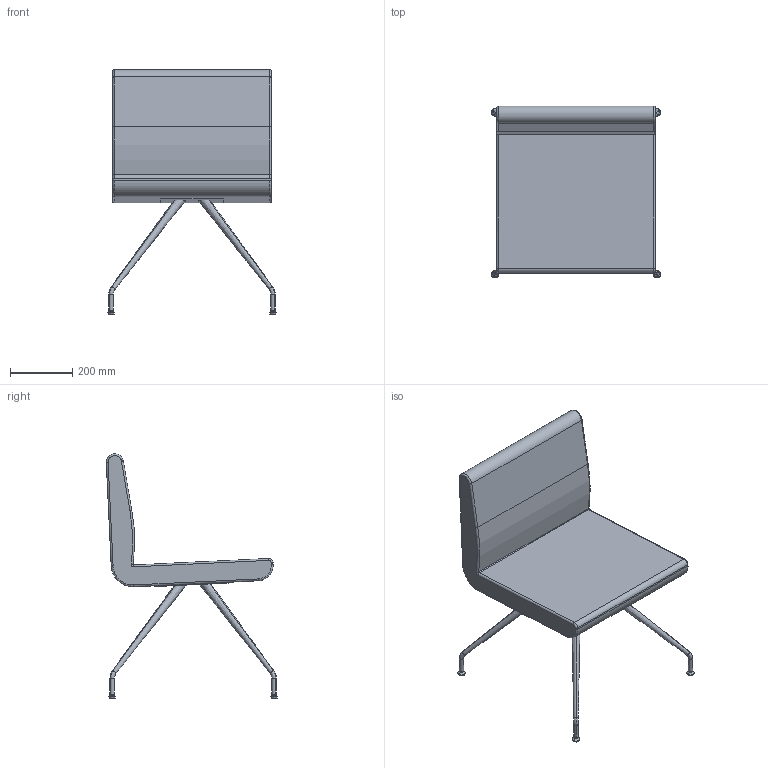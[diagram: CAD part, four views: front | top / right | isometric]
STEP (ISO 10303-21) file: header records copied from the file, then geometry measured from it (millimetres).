
FILE_DESCRIPTION(/* description */ (''),/* implementation_level */ '2;1');
FILE_NAME(/* name */ 'DELTAK~1',/* time_stamp */ '2016-06-16T16:08:48+02:00',/* author */ (''),/* organization */ (''),/* preprocessor_version */ 'ST-DEVELOPER v15',/* originating_system */ '',/* authorisation */ '');
FILE_SCHEMA (('CONFIG_CONTROL_DESIGN'));
Length unit declared in the file: millimetre
Products named in the file (1): Document
Bounding box: 544 x 550.99 x 785.22 mm (x, y, z)
Volume: 30662522 mm3; surface area: 1269336.4 mm2
Topology: 2 solids, 10 shells, 105 faces, 228 edges, 138 vertices
Faces by surface type: bspline 89, plane 16
Entity records: 4046 total; most frequent: CARTESIAN_POINT 2722, ORIENTED_EDGE 426, EDGE_CURVE 225, VERTEX_POINT 132, EDGE_LOOP 109, ADVANCED_FACE 105, FACE_OUTER_BOUND 105, B_SPLINE_CURVE_WITH_KNOTS 41
